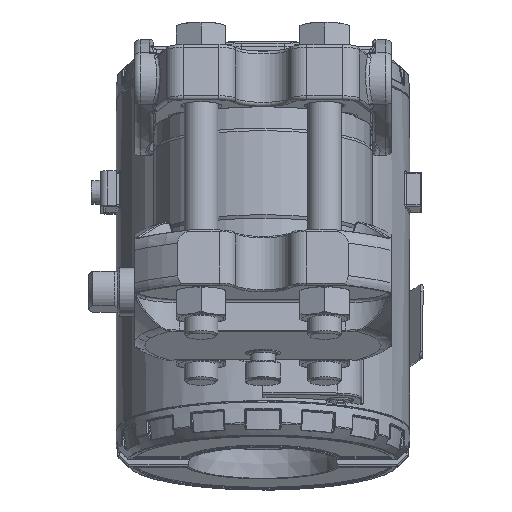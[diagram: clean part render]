
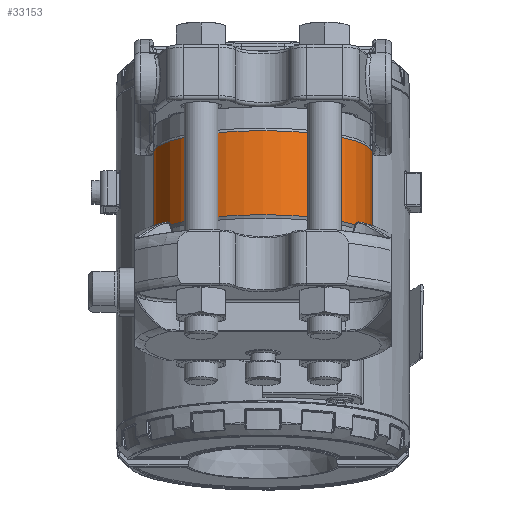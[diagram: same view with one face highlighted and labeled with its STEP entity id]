
A CAD part, left-side view. The second image highlights one B-rep face of the part: STEP entity #33153.
In plain terms, the highlighted cylindrical face has radius 31 mm (diameter 62 mm), a partial arc.
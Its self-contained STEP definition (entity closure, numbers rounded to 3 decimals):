
#1587=CYLINDRICAL_SURFACE('',#35872,31.);
#2529=FACE_OUTER_BOUND('',#4761,.T.);
#4761=EDGE_LOOP('',(#22090,#22091,#22092,#22093,#22094,#22095,#22096,#22097,
#22098,#22099));
#7099=LINE('',#50764,#8341);
#7100=LINE('',#50778,#8342);
#8341=VECTOR('',#40407,10.);
#8342=VECTOR('',#40408,10.);
#9580=CIRCLE('',#35852,31.);
#9583=CIRCLE('',#35855,31.);
#9589=CIRCLE('',#35865,31.);
#9590=CIRCLE('',#35866,31.);
#12259=B_SPLINE_CURVE_WITH_KNOTS('',3,(#50739,#50740,#50741,#50742,#50743,
#50744),.UNSPECIFIED.,.F.,.F.,(4,1,1,4),(0.383,0.548,
0.913,1.279),.UNSPECIFIED.);
#12261=B_SPLINE_CURVE_WITH_KNOTS('',3,(#50757,#50758,#50759,#50760,#50761,
#50762),.UNSPECIFIED.,.F.,.F.,(4,1,1,4),(0.,0.274,0.548,
0.896),.UNSPECIFIED.);
#12262=B_SPLINE_CURVE_WITH_KNOTS('',3,(#50765,#50766,#50767,#50768,#50769,
#50770),.UNSPECIFIED.,.F.,.F.,(4,1,1,4),(0.383,0.548,
0.913,1.279),.UNSPECIFIED.);
#12263=B_SPLINE_CURVE_WITH_KNOTS('',3,(#50772,#50773,#50774,#50775,#50776,
#50777),.UNSPECIFIED.,.F.,.F.,(4,1,1,4),(0.,0.274,
0.548,0.895),.UNSPECIFIED.);
#13510=VERTEX_POINT('',#50606);
#13512=VERTEX_POINT('',#50619);
#13513=VERTEX_POINT('',#50632);
#13525=VERTEX_POINT('',#50675);
#13526=VERTEX_POINT('',#50677);
#13527=VERTEX_POINT('',#50689);
#13529=VERTEX_POINT('',#50738);
#13532=VERTEX_POINT('',#50756);
#13533=VERTEX_POINT('',#50763);
#13534=VERTEX_POINT('',#50771);
#16716=EDGE_CURVE('',#13513,#13512,#9580,.T.);
#16720=EDGE_CURVE('',#13510,#13513,#9583,.T.);
#16732=EDGE_CURVE('',#13526,#13525,#9589,.T.);
#16735=EDGE_CURVE('',#13525,#13527,#9590,.T.);
#16739=EDGE_CURVE('',#13510,#13529,#12259,.T.);
#16743=EDGE_CURVE('',#13532,#13512,#12261,.T.);
#16744=EDGE_CURVE('',#13533,#13532,#7099,.T.);
#16745=EDGE_CURVE('',#13526,#13533,#12262,.T.);
#16746=EDGE_CURVE('',#13534,#13527,#12263,.T.);
#16747=EDGE_CURVE('',#13529,#13534,#7100,.T.);
#22090=ORIENTED_EDGE('',*,*,#16720,.T.);
#22091=ORIENTED_EDGE('',*,*,#16716,.T.);
#22092=ORIENTED_EDGE('',*,*,#16743,.F.);
#22093=ORIENTED_EDGE('',*,*,#16744,.F.);
#22094=ORIENTED_EDGE('',*,*,#16745,.F.);
#22095=ORIENTED_EDGE('',*,*,#16732,.T.);
#22096=ORIENTED_EDGE('',*,*,#16735,.T.);
#22097=ORIENTED_EDGE('',*,*,#16746,.F.);
#22098=ORIENTED_EDGE('',*,*,#16747,.F.);
#22099=ORIENTED_EDGE('',*,*,#16739,.F.);
#33153=ADVANCED_FACE('',(#2529),#1587,.T.);
#35852=AXIS2_PLACEMENT_3D('',#50633,#40361,#40362);
#35855=AXIS2_PLACEMENT_3D('',#50639,#40368,#40369);
#35865=AXIS2_PLACEMENT_3D('',#50678,#40390,#40391);
#35866=AXIS2_PLACEMENT_3D('',#50702,#40392,#40393);
#35872=AXIS2_PLACEMENT_3D('',#50755,#40405,#40406);
#40361=DIRECTION('center_axis',(0.,0.,1.));
#40362=DIRECTION('ref_axis',(-1.,0.,0.));
#40368=DIRECTION('center_axis',(0.,0.,1.));
#40369=DIRECTION('ref_axis',(-1.,0.,0.));
#40390=DIRECTION('center_axis',(0.,0.,-1.));
#40391=DIRECTION('ref_axis',(-1.,0.,0.));
#40392=DIRECTION('center_axis',(0.,0.,-1.));
#40393=DIRECTION('ref_axis',(-1.,0.,0.));
#40405=DIRECTION('center_axis',(0.,0.,1.));
#40406=DIRECTION('ref_axis',(-1.,0.,0.));
#40407=DIRECTION('',(0.,0.,-1.));
#40408=DIRECTION('',(0.,0.,1.));
#50606=CARTESIAN_POINT('',(29.987,7.86,-12.134));
#50619=CARTESIAN_POINT('',(29.987,-7.86,-12.134));
#50632=CARTESIAN_POINT('',(-31.,0.,-12.134));
#50633=CARTESIAN_POINT('Origin',(0.,0.,-12.134));
#50639=CARTESIAN_POINT('Origin',(0.,0.,-12.134));
#50675=CARTESIAN_POINT('',(-31.,0.,12.134));
#50677=CARTESIAN_POINT('',(29.987,-7.86,12.134));
#50678=CARTESIAN_POINT('Origin',(0.,0.,12.134));
#50689=CARTESIAN_POINT('',(29.987,7.86,12.134));
#50702=CARTESIAN_POINT('Origin',(0.,0.,12.134));
#50738=CARTESIAN_POINT('',(28.645,11.853,-5.));
#50739=CARTESIAN_POINT('Ctrl Pts',(29.985,7.857,-12.131));
#50740=CARTESIAN_POINT('Ctrl Pts',(29.871,8.293,-11.889));
#50741=CARTESIAN_POINT('Ctrl Pts',(29.495,9.621,-10.961));
#50742=CARTESIAN_POINT('Ctrl Pts',(28.867,11.328,-8.643));
#50743=CARTESIAN_POINT('Ctrl Pts',(28.645,11.853,-6.218));
#50744=CARTESIAN_POINT('Ctrl Pts',(28.645,11.853,-5.));
#50755=CARTESIAN_POINT('Origin',(0.,0.,0.));
#50756=CARTESIAN_POINT('',(28.645,-11.853,-5.));
#50757=CARTESIAN_POINT('Ctrl Pts',(28.645,-11.853,-5.));
#50758=CARTESIAN_POINT('Ctrl Pts',(28.645,-11.853,-5.913));
#50759=CARTESIAN_POINT('Ctrl Pts',(28.767,-11.563,-7.738));
#50760=CARTESIAN_POINT('Ctrl Pts',(29.282,-10.232,-10.332));
#50761=CARTESIAN_POINT('Ctrl Pts',(29.747,-8.777,-11.623));
#50762=CARTESIAN_POINT('Ctrl Pts',(29.987,-7.86,-12.134));
#50763=CARTESIAN_POINT('',(28.645,-11.853,5.));
#50764=CARTESIAN_POINT('',(28.645,-11.853,0.));
#50765=CARTESIAN_POINT('Ctrl Pts',(29.985,-7.857,12.131));
#50766=CARTESIAN_POINT('Ctrl Pts',(29.871,-8.293,11.889));
#50767=CARTESIAN_POINT('Ctrl Pts',(29.495,-9.621,10.961));
#50768=CARTESIAN_POINT('Ctrl Pts',(28.867,-11.328,8.643));
#50769=CARTESIAN_POINT('Ctrl Pts',(28.645,-11.853,6.218));
#50770=CARTESIAN_POINT('Ctrl Pts',(28.645,-11.853,5.));
#50771=CARTESIAN_POINT('',(28.645,11.853,5.));
#50772=CARTESIAN_POINT('Ctrl Pts',(28.645,11.853,5.));
#50773=CARTESIAN_POINT('Ctrl Pts',(28.645,11.853,5.913));
#50774=CARTESIAN_POINT('Ctrl Pts',(28.767,11.563,7.738));
#50775=CARTESIAN_POINT('Ctrl Pts',(29.282,10.232,10.332));
#50776=CARTESIAN_POINT('Ctrl Pts',(29.747,8.777,11.623));
#50777=CARTESIAN_POINT('Ctrl Pts',(29.987,7.86,12.134));
#50778=CARTESIAN_POINT('',(28.645,11.853,0.));
